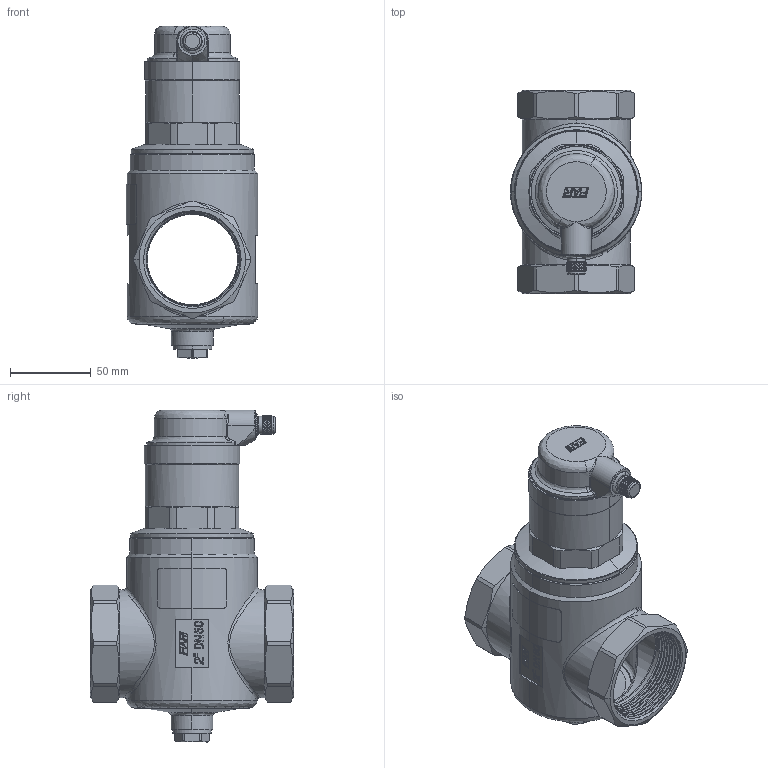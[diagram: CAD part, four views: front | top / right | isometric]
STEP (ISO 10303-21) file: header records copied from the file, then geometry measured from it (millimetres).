
FILE_DESCRIPTION (( 'STEP AP214' ), '1' );
FILE_NAME ('FAR315.STEP', '2022-05-09T09:54:16', ( '' ), ( '' ), 'SwSTEP 2.0', 'SolidWorks 2021', '' );
FILE_SCHEMA (( 'AUTOMOTIVE_DESIGN' ));
Length unit declared in the file: millimetre
Products named in the file (20): 1508trm_giallo; FAR315; 580mnm_F; 481mnm_F; 2506asb; 1509trm_giallo; 542mnm_F; 200lemA; 8350 4445; 004stg; 8350 635; 2507asb; 087stg; 4316asb; 131mtt; 8350 1115; 1443trm_giallo; 2509asb; 8350 172; 3812asb
Assembly tree (19 placements, depth 4):
  FAR315
    2509asb
      2507asb
        087stg
      2506asb
        481mnm_F
        8350 1115
    1508trm_giallo
    1509trm_giallo
    131mtt
    8350 4445
    8350 635
    3812asb
      542mnm_F
      8350 172
    1443trm_giallo
    4316asb
      004stg
      580mnm_F
    200lemA
Bounding box: 81.45 x 126 x 205.77 mm (x, y, z)
Volume: 219209.6 mm3; surface area: 140721.9 mm2
Topology: 14 solids, 14 shells, 2116 faces, 5119 edges, 3082 vertices
Faces by surface type: bspline 999, cylinder 613, plane 292, cone 212
Entity records: 109628 total; most frequent: CARTESIAN_POINT 68823, ORIENTED_EDGE 10216, EDGE_CURVE 5108, DIRECTION 5059, VERTEX_POINT 3082, B_SPLINE_CURVE_WITH_KNOTS 2920, EDGE_LOOP 2202, ADVANCED_FACE 2116
